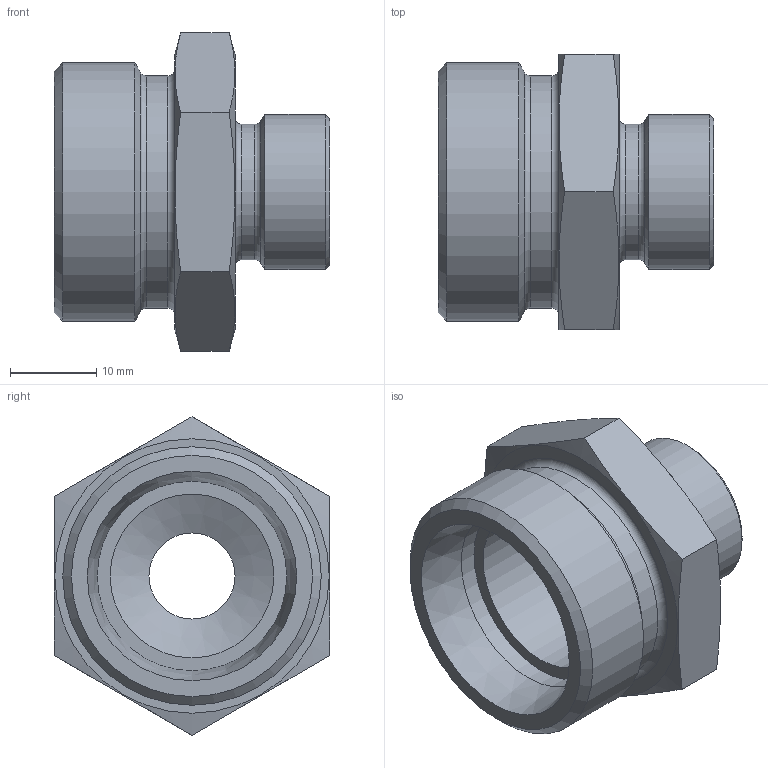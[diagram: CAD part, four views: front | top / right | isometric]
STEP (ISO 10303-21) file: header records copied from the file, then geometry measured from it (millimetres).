
FILE_DESCRIPTION( ( 'Unknown' ), '1' );
FILE_NAME( 'C:/Users/p.nanko/Desktop/3D SR/XGR2212L.stp', 'Unknown', ( 'Peter Nanko' ), ( 'Armaturen Arndt' ), 'PSStep 14.0', 'Solid Edge ST4', ' ' );
FILE_SCHEMA( ( 'AUTOMOTIVE_DESIGN { 1 0 10303 214 1 1 1 1 }' ) );
Length unit declared in the file: millimetre
Products named in the file (1): 1
Bounding box: 32 x 32 x 36.95 mm (x, y, z)
Volume: 10782.4 mm3; surface area: 5850.6 mm2
Topology: 1 solids, 1 shells, 33 faces, 70 edges, 43 vertices
Faces by surface type: plane 12, cone 9, cylinder 8, torus 4
Full cylindrical faces by diameter (mm): 10 x1, 12 x1, 15.7 x1, 18 x1, 19 x1, 22 x1, 27 x1, 30 x1
Entity records: 1092 total; most frequent: CARTESIAN_POINT 216, DIRECTION 126, ORIENTED_EDGE 88, AXIS2_PLACEMENT_3D 60, EDGE_LOOP 60, FACE_OUTER_BOUND 45, EDGE_CURVE 44, VERTEX_POINT 38
